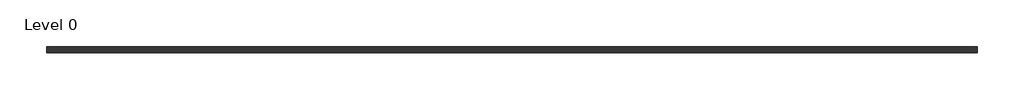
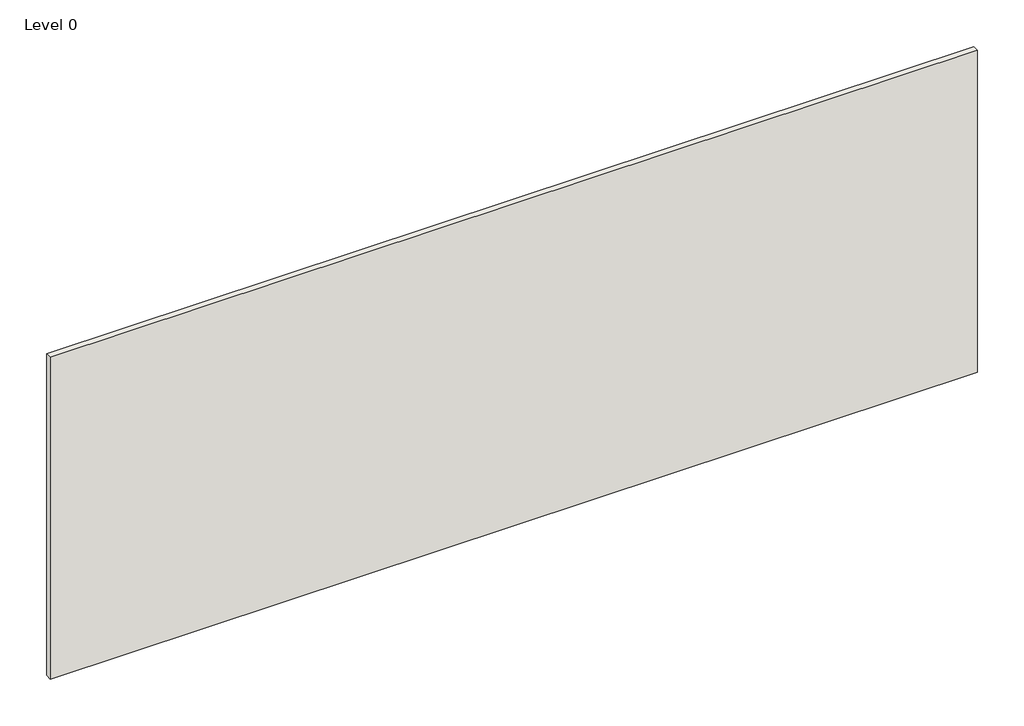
# One storey: 1 wall.
"""IFC4 building model written with IfcOpenShell, lengths in millimetres."""

from ifc_helpers import new_model, si_unit, origin, origin_with_axes, place, context, project, spatial, polyline, outline, extrude, element, save

model = new_model("IFC4")

# Units and contexts
model_context = context("Model", 3, world=origin())
ifc_project = project(units=[si_unit("LENGTHUNIT", "METRE", prefix="MILLI")], contexts=[model_context])

# Site, building, storey
site = spatial("IfcSite", under=ifc_project)
building = spatial("IfcBuilding", under=site)
storey = spatial("IfcBuildingStorey", under=building, Name="Level 0", Elevation=0.0)

# Wall
placement = place(None, origin())
element("IfcWall", 1, ObjectType="B226010 - GypLiner", at=placement, inside=storey, context=model_context, shape_type="SweptSolid", body=[
    extrude(outline(polyline([(5160.9071466, -3260.9763865), (-5739.0928534, -3260.9763865), (-5739.0928534, -3185.9763865), (5160.9071466, -3185.9763865), (5160.9071466, -3260.9763865)])), origin_with_axes(), (0.0, 0.0, 1.0), 4000.0),
])

save(model, "model.ifc")
